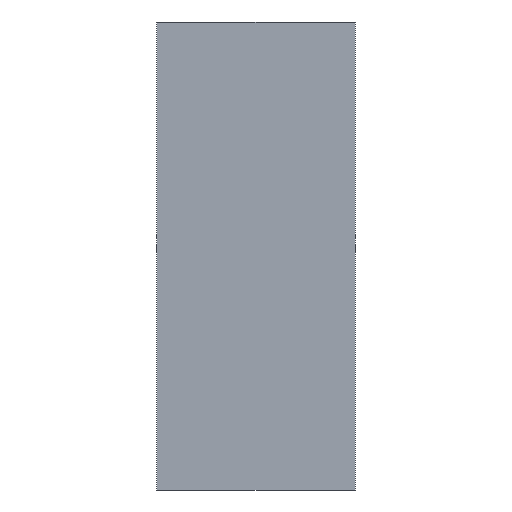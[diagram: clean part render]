
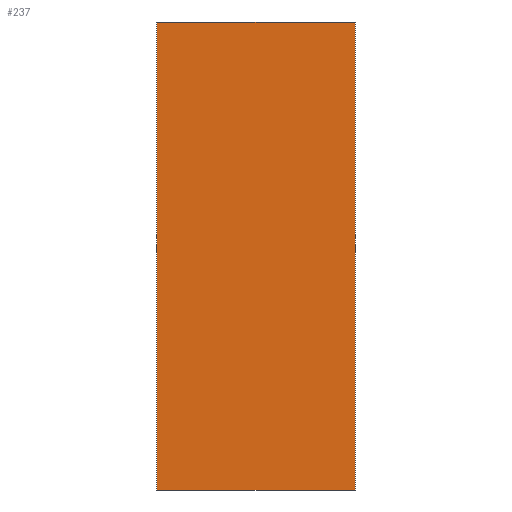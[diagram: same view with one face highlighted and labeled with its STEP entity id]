
A CAD part, front view. The second image highlights one B-rep face of the part: STEP entity #237.
In plain terms, the highlighted planar face has unit normal (0, -1, 0).
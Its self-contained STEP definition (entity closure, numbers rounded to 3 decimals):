
#21 = EDGE_CURVE('',#22,#24,#26,.T.);
#22 = VERTEX_POINT('',#23);
#23 = CARTESIAN_POINT('',(-180.,-36.,-80.));
#24 = VERTEX_POINT('',#25);
#25 = CARTESIAN_POINT('',(-180.,-36.,770.));
#26 = SURFACE_CURVE('',#27,(#31,#43),.PCURVE_S1.);
#27 = LINE('',#28,#29);
#28 = CARTESIAN_POINT('',(-180.,-36.,-80.));
#29 = VECTOR('',#30,1.);
#30 = DIRECTION('',(0.,0.,1.));
#31 = PCURVE('',#32,#37);
#32 = PLANE('',#33);
#33 = AXIS2_PLACEMENT_3D('',#34,#35,#36);
#34 = CARTESIAN_POINT('',(-180.,-36.,-80.));
#35 = DIRECTION('',(1.,0.,0.));
#36 = DIRECTION('',(0.,0.,1.));
#37 = DEFINITIONAL_REPRESENTATION('',(#38),#42);
#38 = LINE('',#39,#40);
#39 = CARTESIAN_POINT('',(0.,0.));
#40 = VECTOR('',#41,1.);
#41 = DIRECTION('',(1.,0.));
#42 = ( GEOMETRIC_REPRESENTATION_CONTEXT(2) 
PARAMETRIC_REPRESENTATION_CONTEXT() REPRESENTATION_CONTEXT('2D SPACE',''
  ) );
#43 = PCURVE('',#44,#49);
#44 = PLANE('',#45);
#45 = AXIS2_PLACEMENT_3D('',#46,#47,#48);
#46 = CARTESIAN_POINT('',(-180.,-36.,-80.));
#47 = DIRECTION('',(0.,1.,0.));
#48 = DIRECTION('',(0.,0.,1.));
#49 = DEFINITIONAL_REPRESENTATION('',(#50),#54);
#50 = LINE('',#51,#52);
#51 = CARTESIAN_POINT('',(0.,0.));
#52 = VECTOR('',#53,1.);
#53 = DIRECTION('',(1.,0.));
#54 = ( GEOMETRIC_REPRESENTATION_CONTEXT(2) 
PARAMETRIC_REPRESENTATION_CONTEXT() REPRESENTATION_CONTEXT('2D SPACE',''
  ) );
#72 = PLANE('',#73);
#73 = AXIS2_PLACEMENT_3D('',#74,#75,#76);
#74 = CARTESIAN_POINT('',(-180.,-36.,-80.));
#75 = DIRECTION('',(0.,0.,1.));
#76 = DIRECTION('',(1.,0.,0.));
#126 = PLANE('',#127);
#127 = AXIS2_PLACEMENT_3D('',#128,#129,#130);
#128 = CARTESIAN_POINT('',(-180.,-36.,770.));
#129 = DIRECTION('',(0.,0.,1.));
#130 = DIRECTION('',(1.,0.,0.));
#141 = EDGE_CURVE('',#142,#144,#146,.T.);
#142 = VERTEX_POINT('',#143);
#143 = CARTESIAN_POINT('',(180.,-36.,-80.));
#144 = VERTEX_POINT('',#145);
#145 = CARTESIAN_POINT('',(180.,-36.,770.));
#146 = SURFACE_CURVE('',#147,(#151,#163),.PCURVE_S1.);
#147 = LINE('',#148,#149);
#148 = CARTESIAN_POINT('',(180.,-36.,-80.));
#149 = VECTOR('',#150,1.);
#150 = DIRECTION('',(0.,0.,1.));
#151 = PCURVE('',#152,#157);
#152 = PLANE('',#153);
#153 = AXIS2_PLACEMENT_3D('',#154,#155,#156);
#154 = CARTESIAN_POINT('',(180.,-36.,-80.));
#155 = DIRECTION('',(1.,0.,0.));
#156 = DIRECTION('',(0.,0.,1.));
#157 = DEFINITIONAL_REPRESENTATION('',(#158),#162);
#158 = LINE('',#159,#160);
#159 = CARTESIAN_POINT('',(0.,0.));
#160 = VECTOR('',#161,1.);
#161 = DIRECTION('',(1.,0.));
#162 = ( GEOMETRIC_REPRESENTATION_CONTEXT(2) 
PARAMETRIC_REPRESENTATION_CONTEXT() REPRESENTATION_CONTEXT('2D SPACE',''
  ) );
#163 = PCURVE('',#44,#164);
#164 = DEFINITIONAL_REPRESENTATION('',(#165),#169);
#165 = LINE('',#166,#167);
#166 = CARTESIAN_POINT('',(0.,360.));
#167 = VECTOR('',#168,1.);
#168 = DIRECTION('',(1.,0.));
#169 = ( GEOMETRIC_REPRESENTATION_CONTEXT(2) 
PARAMETRIC_REPRESENTATION_CONTEXT() REPRESENTATION_CONTEXT('2D SPACE',''
  ) );
#237 = ADVANCED_FACE('',(#238),#44,.F.);
#238 = FACE_BOUND('',#239,.F.);
#239 = EDGE_LOOP('',(#240,#261,#262,#283));
#240 = ORIENTED_EDGE('',*,*,#241,.F.);
#241 = EDGE_CURVE('',#22,#142,#242,.T.);
#242 = SURFACE_CURVE('',#243,(#247,#254),.PCURVE_S1.);
#243 = LINE('',#244,#245);
#244 = CARTESIAN_POINT('',(-180.,-36.,-80.));
#245 = VECTOR('',#246,1.);
#246 = DIRECTION('',(1.,0.,0.));
#247 = PCURVE('',#44,#248);
#248 = DEFINITIONAL_REPRESENTATION('',(#249),#253);
#249 = LINE('',#250,#251);
#250 = CARTESIAN_POINT('',(0.,0.));
#251 = VECTOR('',#252,1.);
#252 = DIRECTION('',(0.,1.));
#253 = ( GEOMETRIC_REPRESENTATION_CONTEXT(2) 
PARAMETRIC_REPRESENTATION_CONTEXT() REPRESENTATION_CONTEXT('2D SPACE',''
  ) );
#254 = PCURVE('',#72,#255);
#255 = DEFINITIONAL_REPRESENTATION('',(#256),#260);
#256 = LINE('',#257,#258);
#257 = CARTESIAN_POINT('',(0.,0.));
#258 = VECTOR('',#259,1.);
#259 = DIRECTION('',(1.,0.));
#260 = ( GEOMETRIC_REPRESENTATION_CONTEXT(2) 
PARAMETRIC_REPRESENTATION_CONTEXT() REPRESENTATION_CONTEXT('2D SPACE',''
  ) );
#261 = ORIENTED_EDGE('',*,*,#21,.T.);
#262 = ORIENTED_EDGE('',*,*,#263,.T.);
#263 = EDGE_CURVE('',#24,#144,#264,.T.);
#264 = SURFACE_CURVE('',#265,(#269,#276),.PCURVE_S1.);
#265 = LINE('',#266,#267);
#266 = CARTESIAN_POINT('',(-180.,-36.,770.));
#267 = VECTOR('',#268,1.);
#268 = DIRECTION('',(1.,0.,0.));
#269 = PCURVE('',#44,#270);
#270 = DEFINITIONAL_REPRESENTATION('',(#271),#275);
#271 = LINE('',#272,#273);
#272 = CARTESIAN_POINT('',(850.,0.));
#273 = VECTOR('',#274,1.);
#274 = DIRECTION('',(0.,1.));
#275 = ( GEOMETRIC_REPRESENTATION_CONTEXT(2) 
PARAMETRIC_REPRESENTATION_CONTEXT() REPRESENTATION_CONTEXT('2D SPACE',''
  ) );
#276 = PCURVE('',#126,#277);
#277 = DEFINITIONAL_REPRESENTATION('',(#278),#282);
#278 = LINE('',#279,#280);
#279 = CARTESIAN_POINT('',(0.,0.));
#280 = VECTOR('',#281,1.);
#281 = DIRECTION('',(1.,0.));
#282 = ( GEOMETRIC_REPRESENTATION_CONTEXT(2) 
PARAMETRIC_REPRESENTATION_CONTEXT() REPRESENTATION_CONTEXT('2D SPACE',''
  ) );
#283 = ORIENTED_EDGE('',*,*,#141,.F.);
